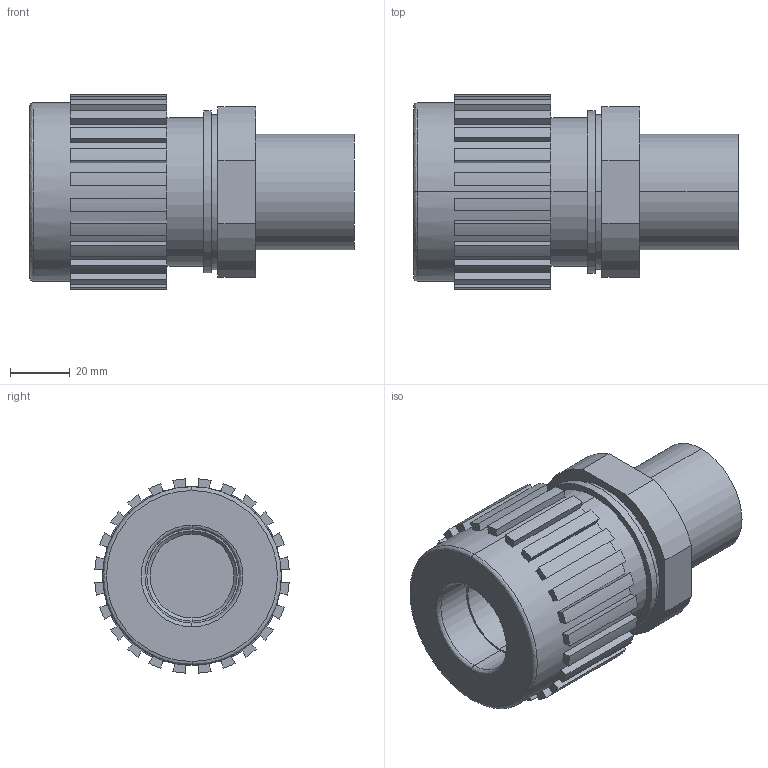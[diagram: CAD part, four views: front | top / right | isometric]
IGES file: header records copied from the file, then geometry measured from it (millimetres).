
Start section: SolidWorks IGES file using analytic representation for surfaces
Global section: file name: S:\Product Visuals\Pumps to be Defeatured\140 fittings\FITTING ASSEMBLIES\DEFEATURED\20-s-300.IGS; native system: SolidWorks 2012; preprocessor: SolidWorks 2012; author: rachel.dressel; date: 121203.113608; units: inch
Bounding box: 109.01 x 65.25 x 65.25 mm (x, y, z)
Volume: 208778.7 mm3; surface area: 35952.1 mm2
Topology: 1 solids, 1 shells, 135 faces, 374 edges, 248 vertices
Faces by surface type: plane 88, revolution 47
